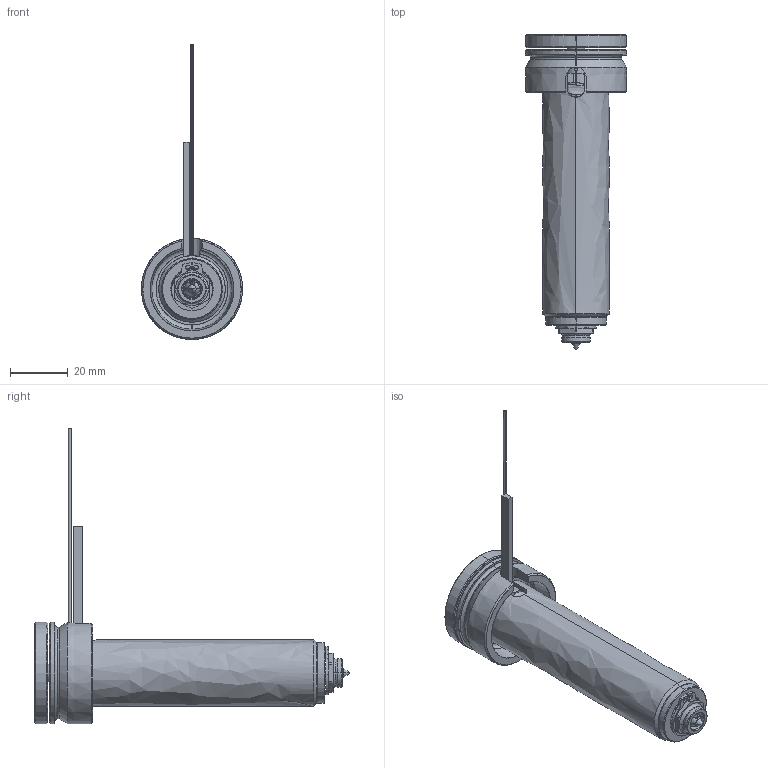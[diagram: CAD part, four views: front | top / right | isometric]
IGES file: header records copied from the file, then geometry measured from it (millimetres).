
Start section: SolidWorks IGES file using analytic representation for surfaces
Global section: file name: C:\Documents and Settings\ws-20\Desktop\TEM\UGEP3052-S-A-1 [Øf-0.50 ØC-6.0].IGS; native system: SolidWorks 2012; preprocessor: SolidWorks 2012; author: ws-20; date: 120402.112400; units: millimetre
Bounding box: 35 x 108.8 x 102.1 mm (x, y, z)
Surface area: 19171.4 mm2 (no closed solid volume)
Topology: 0 solids, 0 shells, 137 faces, 2064 edges, 2064 vertices
Faces by surface type: revolution 85, bspline 52
